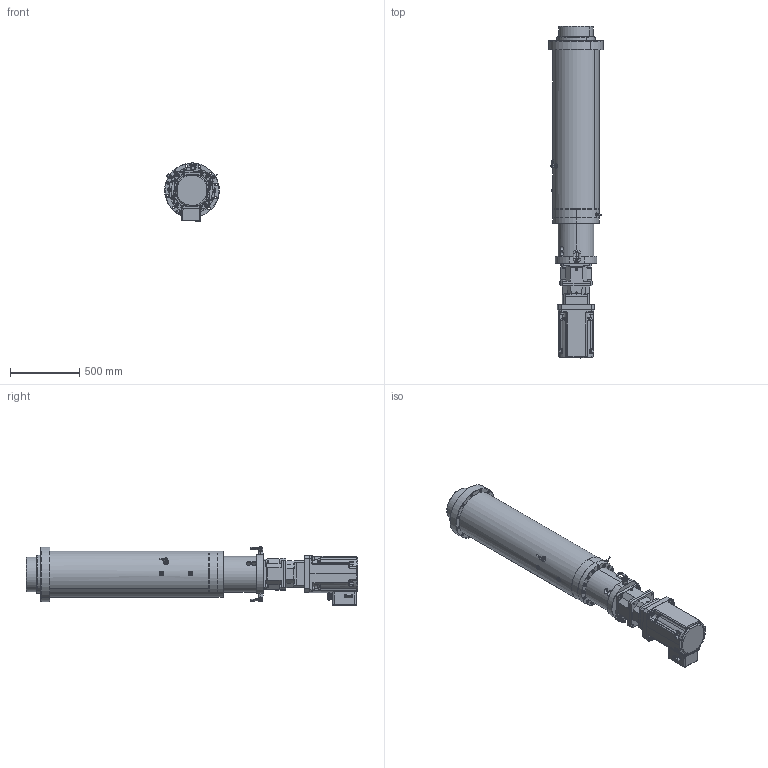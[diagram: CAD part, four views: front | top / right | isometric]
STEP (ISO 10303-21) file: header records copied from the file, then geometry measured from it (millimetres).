
FILE_DESCRIPTION (( 'STEP AP203' ), '1' );
FILE_NAME ('37510500.STEP', '2019-05-02T14:20:34', ( '' ), ( '' ), 'SwSTEP 2.0', 'SolidWorks 2016', '' );
FILE_SCHEMA (( 'CONFIG_CONTROL_DESIGN' ));
Products named in the file (2): 37510500
Bounding box: 394.75 x 2399.5 x 422.35 mm (x, y, z)
Volume: 116564466.2 mm3; surface area: 6846273.7 mm2
Topology: 54 solids, 58 shells, 3002 faces, 7043 edges, 4184 vertices
Faces by surface type: plane 1202, cylinder 1039, cone 429, bspline 204, torus 128
Entity records: 104841 total; most frequent: CARTESIAN_POINT 37548, DIRECTION 14305, ORIENTED_EDGE 13598, EDGE_CURVE 6799, AXIS2_PLACEMENT_3D 5459, VERTEX_POINT 4184, EDGE_LOOP 3485, VECTOR 3387
